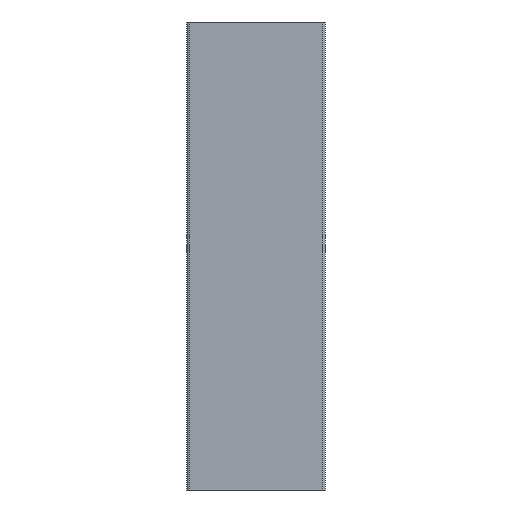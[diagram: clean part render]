
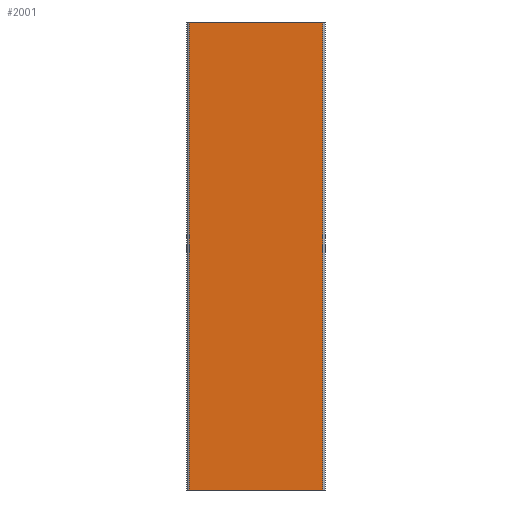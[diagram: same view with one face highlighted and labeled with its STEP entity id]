
A CAD part, left-side view. The second image highlights one B-rep face of the part: STEP entity #2001.
In plain terms, the highlighted planar face has unit normal (-1, 0, 0).
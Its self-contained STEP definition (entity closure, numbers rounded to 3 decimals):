
#67=PLANE('',#2250);
#168=FACE_OUTER_BOUND('',#273,.T.);
#273=EDGE_LOOP('',(#1841,#1842,#1843,#1844));
#291=LINE('',#2933,#476);
#351=LINE('',#3179,#536);
#379=LINE('',#3303,#564);
#387=LINE('',#3318,#572);
#476=VECTOR('',#2309,10.);
#536=VECTOR('',#2505,10.);
#564=VECTOR('',#2619,10.);
#572=VECTOR('',#2641,10.);
#781=VERTEX_POINT('',#2930);
#782=VERTEX_POINT('',#2932);
#899=VERTEX_POINT('',#3176);
#900=VERTEX_POINT('',#3178);
#983=EDGE_CURVE('',#782,#781,#291,.T.);
#1107=EDGE_CURVE('',#900,#899,#351,.T.);
#1171=EDGE_CURVE('',#782,#899,#379,.T.);
#1179=EDGE_CURVE('',#900,#781,#387,.T.);
#1841=ORIENTED_EDGE('',*,*,#1171,.F.);
#1842=ORIENTED_EDGE('',*,*,#983,.T.);
#1843=ORIENTED_EDGE('',*,*,#1179,.F.);
#1844=ORIENTED_EDGE('',*,*,#1107,.T.);
#2001=ADVANCED_FACE('',(#168),#67,.T.);
#2250=AXIS2_PLACEMENT_3D('',#3466,#2865,#2866);
#2309=DIRECTION('',(0.,-1.,0.));
#2505=DIRECTION('',(0.,1.,0.));
#2619=DIRECTION('',(0.,0.,1.));
#2641=DIRECTION('',(0.,0.,-1.));
#2865=DIRECTION('center_axis',(-1.,0.,0.));
#2866=DIRECTION('ref_axis',(0.,0.,1.));
#2930=CARTESIAN_POINT('',(-8.,-14.25,-50.));
#2932=CARTESIAN_POINT('',(-8.,14.25,-50.));
#2933=CARTESIAN_POINT('',(-8.,14.75,-50.));
#3176=CARTESIAN_POINT('',(-8.,14.25,50.));
#3178=CARTESIAN_POINT('',(-8.,-14.25,50.));
#3179=CARTESIAN_POINT('',(-8.,14.75,50.));
#3303=CARTESIAN_POINT('',(-8.,14.25,0.));
#3318=CARTESIAN_POINT('',(-8.,-14.25,0.));
#3466=CARTESIAN_POINT('Origin',(-8.,-14.75,0.));
